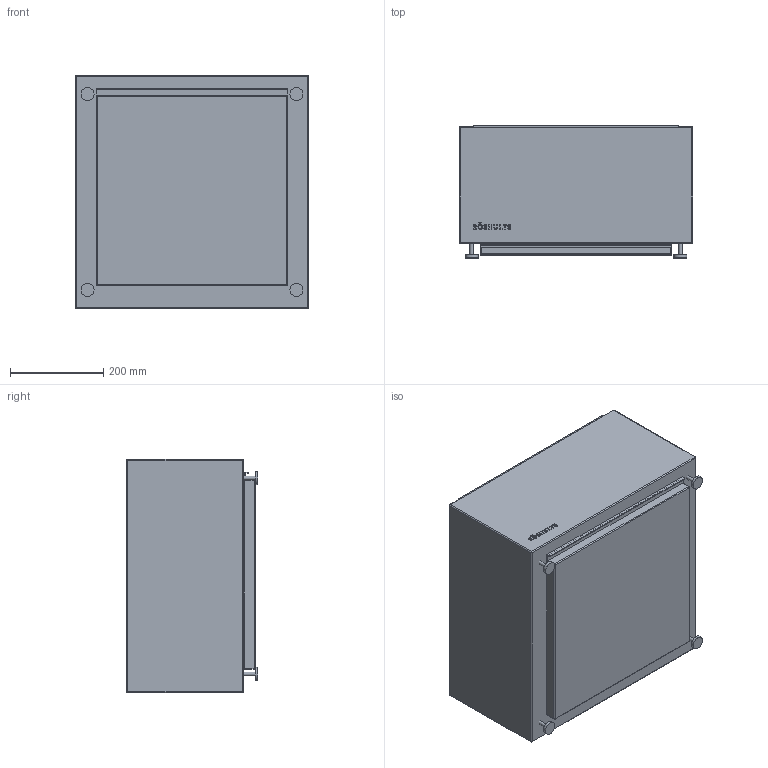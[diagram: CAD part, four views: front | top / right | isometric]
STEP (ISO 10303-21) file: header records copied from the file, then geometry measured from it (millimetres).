
FILE_DESCRIPTION(/* description */ (''),/* implementation_level */ '2;1');
FILE_NAME(/* name */ 'C:\INVENTOR\Workspace\# ARKITEKT FILER\Modules\Charcoal Grill X\Charcoal Grill X.stp',/* time_stamp */ '2020-05-28T08:18:29+02:00',/* author */ ('Röshults'),/* organization */ (''),/* preprocessor_version */ 'ST-DEVELOPER v17.2',/* originating_system */ 'Autodesk Inventor 2019',/* authorisation */ '');
FILE_SCHEMA (('AUTOMOTIVE_DESIGN { 1 0 10303 214 3 1 1 }'));
Length unit declared in the file: millimetre
Products named in the file (5): Charcoal Grill; Grill Body Charcoal; Charcoal Grate; Grill Grid; 100288
Assembly tree (7 placements, depth 2):
  Charcoal Grill
    Grill Body Charcoal
    Charcoal Grate
    Grill Grid
    100288  x4
Bounding box: 500 x 282.5 x 500 mm (x, y, z)
Volume: 38038182 mm3; surface area: 2498501.5 mm2
Topology: 7 solids, 7 shells, 414 faces, 1038 edges, 705 vertices
Faces by surface type: plane 308, cylinder 71, bspline 19, sphere 12, torus 4
Full cylindrical faces by diameter (mm): 6 x26, 8 x4, 28 x4
Entity records: 15551 total; most frequent: CARTESIAN_POINT 5458, ORIENTED_EDGE 2016, DIRECTION 1819, EDGE_CURVE 1008, LINE 763, VECTOR 763, VERTEX_POINT 681, EDGE_LOOP 619
